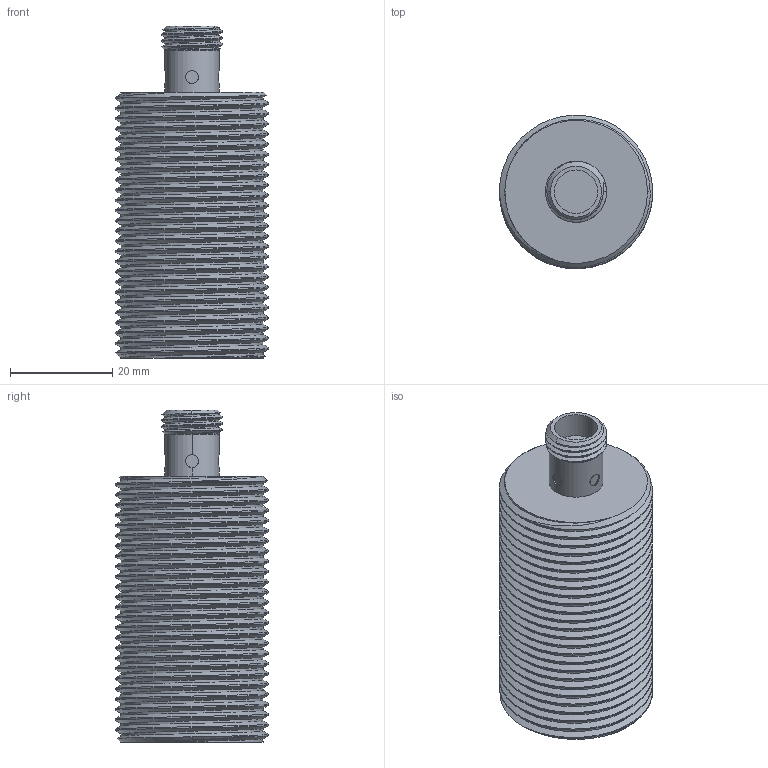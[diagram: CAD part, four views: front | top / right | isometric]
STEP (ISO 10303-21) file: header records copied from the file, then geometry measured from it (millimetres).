
FILE_DESCRIPTION (( 'STEP AP214' ), '1' );
FILE_NAME ('BIN6P22.STEP', '2025-08-21T06:05:23', ( '' ), ( '' ), 'SwSTEP 2.0', 'SolidWorks 2022', '' );
FILE_SCHEMA (( 'AUTOMOTIVE_DESIGN' ));
Length unit declared in the file: millimetre
Products named in the file (1): BIN6P22
Bounding box: 30 x 29.96 x 65 mm (x, y, z)
Volume: 34712.3 mm3; surface area: 9523.6 mm2
Topology: 1 solids, 1 shells, 95 faces, 255 edges, 166 vertices
Faces by surface type: cylinder 69, cone 10, plane 10, bspline 6
Entity records: 9506 total; most frequent: CARTESIAN_POINT 7509, ORIENTED_EDGE 510, DIRECTION 312, EDGE_CURVE 255, VERTEX_POINT 166, AXIS2_PLACEMENT_3D 116, EDGE_LOOP 99, ADVANCED_FACE 95
